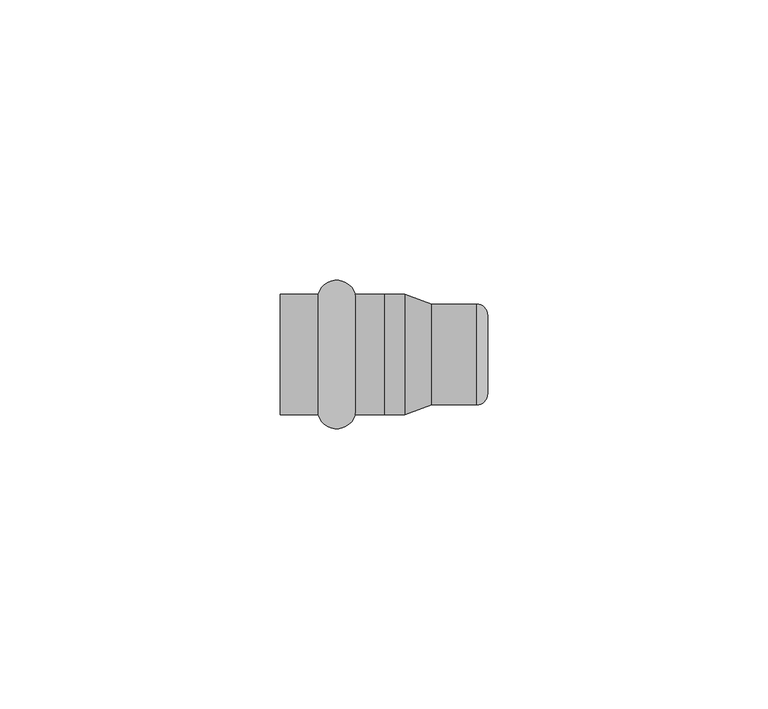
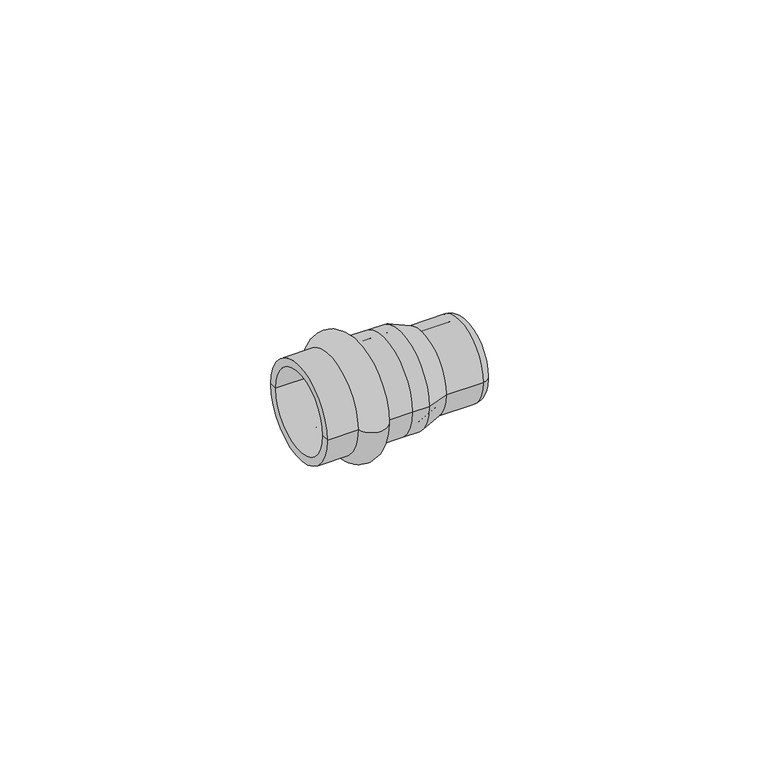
"""IFC4 building model written with IfcOpenShell, lengths in millimetres: pipe fitting geometry, VALTEC_VTi.961.I_Заглушка_нержавеющая : VTi.961.I."""

from ifc_helpers import new_model, si_unit, point, frame, origin, place, context, project, spatial, polyline, circle_curve, ellipse_curve, trimmed, source, transform, mapped, element, save
from ifc_brep_helpers import plane_surface, cylinder_surface, revolved_surface, advanced_brep


def pipe_fitting_948c0ee8(model_context):
    return source(origin(), model_context, "Body", "AdvancedBrep", [
        advanced_brep(
        [(6.7712807, -10.75, 0.0), (6.7712807, 10.75, 0.0), (13.3287193, 10.75, 0.0), (13.3287193, -10.75, 0.0), (0.0, -10.75, 0.0), (0.0, 10.75, 0.0), (0.0, -9.0, 0.0), (0.0, 9.0, 0.0), (18.5, -9.0, 0.0), (18.5, 9.0, 0.0), (18.5, -10.75, 0.0), (18.5, 10.75, 0.0)],
        [
            (0, 1, circle_curve(frame((6.7712807, 0.0, 0.0), z_axis=(1.0, 0.0, 0.0), x_axis=(0.0, 1.0, 0.0)), 10.75)),
            (1, 2, circle_curve(frame((10.05, 9.85, 0.0), z_axis=(0.0, 0.0, -1.0), x_axis=(1.0, 0.0, 0.0)), 3.4)),
            (2, 3, circle_curve(frame((13.3287193, 0.0, 0.0), z_axis=(-1.0, 0.0, 0.0), x_axis=(0.0, 1.0, 0.0)), 10.75)),
            (3, 0, circle_curve(frame((10.05, -9.85, 0.0), z_axis=(0.0, 0.0, -1.0), x_axis=(1.0, 0.0, 0.0)), 3.4)),
            (1, 0, circle_curve(frame((6.7712807, 0.0, 0.0), z_axis=(1.0, 0.0, 0.0), x_axis=(0.0, 1.0, 0.0)), 10.75)),
            (3, 2, circle_curve(frame((13.3287193, 0.0, 0.0), z_axis=(-1.0, 0.0, 0.0), x_axis=(0.0, 1.0, 0.0)), 10.75)),
            (4, 5, circle_curve(frame((0.0, 0.0, 0.0), z_axis=(1.0, 0.0, 0.0), x_axis=(0.0, 1.0, 0.0)), 10.75)),
            (5, 1),
            (0, 4),
            (5, 4, circle_curve(frame((0.0, 0.0, 0.0), z_axis=(1.0, 0.0, 0.0), x_axis=(0.0, 1.0, 0.0)), 10.75)),
            (6, 7, circle_curve(frame((0.0, 0.0, 0.0), z_axis=(1.0, 0.0, 0.0), x_axis=(0.0, 1.0, 0.0)), 9.0)),
            (7, 5),
            (4, 6),
            (7, 6, circle_curve(frame((0.0, 0.0, 0.0), z_axis=(1.0, 0.0, 0.0), x_axis=(0.0, 1.0, 0.0)), 9.0)),
            (8, 9, circle_curve(frame((18.5, 0.0, 0.0), z_axis=(1.0, 0.0, 0.0), x_axis=(0.0, 1.0, 0.0)), 9.0)),
            (9, 7),
            (6, 8),
            (9, 8, circle_curve(frame((18.5, 0.0, 0.0), z_axis=(1.0, 0.0, 0.0), x_axis=(0.0, 1.0, 0.0)), 9.0)),
            (10, 11, circle_curve(frame((18.5, 0.0, 0.0), z_axis=(1.0, 0.0, 0.0), x_axis=(0.0, 1.0, 0.0)), 10.75)),
            (11, 9),
            (8, 10),
            (11, 10, circle_curve(frame((18.5, 0.0, 0.0), z_axis=(1.0, 0.0, 0.0), x_axis=(0.0, 1.0, 0.0)), 10.75)),
            (2, 11),
            (10, 3),
        ],
        [
            revolved_surface(trimmed(ellipse_curve(frame((10.05, 9.85, 0.0), z_axis=(0.0, 0.0, 1.0), x_axis=(1.0, 0.0, 0.0)), 3.4, 3.4), [point((13.3287193, 10.75, 0.0))], [point((6.7712807, 10.75, 0.0))], True, "CARTESIAN"), (-3.5364426, 0.0, 0.0), (-1.0, 0.0, 0.0)),
            cylinder_surface(frame((-3.5364426, 0.0, 0.0), z_axis=(-1.0, 0.0, 0.0), x_axis=(0.0, 1.0, 0.0)), 10.75),
            plane_surface(frame((0.0, 0.0, 0.0), z_axis=(-1.0, 0.0, 0.0), x_axis=(0.0, 1.0, 0.0))),
            revolved_surface(polyline([(0.0, 9.0, 0.0), (18.5, 9.0, 0.0)]), (-3.5364426, 0.0, 0.0), (-1.0, 0.0, 0.0)),
            plane_surface(frame((18.5, 0.0, 0.0), z_axis=(1.0, 0.0, 0.0), x_axis=(0.0, 1.0, 0.0))),
        ],
        [
            (0, [[1, 2, 3, 4]]),
            (0, [[5, -4, 6, -2]]),
            (1, [[7, 8, -1, 9]]),
            (1, [[10, -9, -5, -8]]),
            (2, [[11, 12, -7, 13]]),
            (2, [[14, -13, -10, -12]]),
            (3, [[15, 16, -11, 17]]),
            (3, [[18, -17, -14, -16]]),
            (4, [[19, 20, -15, 21]]),
            (4, [[22, -21, -18, -20]]),
            (1, [[-3, 23, -19, 24]]),
            (1, [[-6, -24, -22, -23]]),
        ],
    ),
        advanced_brep(
        [(18.5, -10.75, 0.0), (18.5, 10.75, 0.0), (22.1919145, 10.75, 0.0), (22.1919145, -10.75, 0.0), (22.1919145, -9.0, 0.0), (22.1919145, 9.0, 0.0), (18.5, 9.0, 0.0), (18.5, -9.0, 0.0), (35.25, -7.25, 0.0), (35.25, 7.25, 0.0), (27.0, 7.25, 0.0), (27.0, -7.25, 0.0), (35.25, 0.0, 0.0), (37.0, -7.0, 0.0), (37.0, 7.0, 0.0), (37.0, 0.0, 0.0), (27.0, -9.0, 0.0), (27.0, 9.0, 0.0), (35.0, 9.0, 0.0), (35.0, -9.0, 0.0)],
        [
            (0, 1, circle_curve(frame((18.5, 0.0, 0.0), z_axis=(1.0, 0.0, 0.0), x_axis=(0.0, 1.0, 0.0)), 10.75)),
            (1, 2),
            (2, 3, circle_curve(frame((22.1919145, 0.0, 0.0), z_axis=(-1.0, 0.0, 0.0), x_axis=(0.0, 1.0, 0.0)), 10.75)),
            (3, 0),
            (1, 0, circle_curve(frame((18.5, 0.0, 0.0), z_axis=(1.0, 0.0, 0.0), x_axis=(0.0, 1.0, 0.0)), 10.75)),
            (3, 2, circle_curve(frame((22.1919145, 0.0, 0.0), z_axis=(-1.0, 0.0, 0.0), x_axis=(0.0, 1.0, 0.0)), 10.75)),
            (4, 5, circle_curve(frame((22.1919145, 0.0, 0.0), z_axis=(1.0, 0.0, 0.0), x_axis=(0.0, 1.0, 0.0)), 9.0)),
            (5, 6),
            (6, 7, circle_curve(frame((18.5, 0.0, 0.0), z_axis=(-1.0, 0.0, 0.0), x_axis=(0.0, 1.0, 0.0)), 9.0)),
            (7, 4),
            (5, 4, circle_curve(frame((22.1919145, 0.0, 0.0), z_axis=(1.0, 0.0, 0.0), x_axis=(0.0, 1.0, 0.0)), 9.0)),
            (7, 6, circle_curve(frame((18.5, 0.0, 0.0), z_axis=(-1.0, 0.0, 0.0), x_axis=(0.0, 1.0, 0.0)), 9.0)),
            (6, 1),
            (0, 7),
            (8, 9, circle_curve(frame((35.25, 0.0, 0.0), z_axis=(1.0, 0.0, 0.0), x_axis=(0.0, 1.0, 0.0)), 7.25)),
            (9, 10),
            (10, 11, circle_curve(frame((27.0, 0.0, 0.0), z_axis=(-1.0, 0.0, 0.0), x_axis=(0.0, 1.0, 0.0)), 7.25)),
            (11, 8),
            (9, 8, circle_curve(frame((35.25, 0.0, 0.0), z_axis=(1.0, 0.0, 0.0), x_axis=(0.0, 1.0, 0.0)), 7.25)),
            (11, 10, circle_curve(frame((27.0, 0.0, 0.0), z_axis=(-1.0, 0.0, 0.0), x_axis=(0.0, 1.0, 0.0)), 7.25)),
            (12, 9),
            (8, 12),
            (13, 14, circle_curve(frame((37.0, 0.0, 0.0), z_axis=(1.0, 0.0, 0.0), x_axis=(0.0, 1.0, 0.0)), 7.0)),
            (14, 15),
            (15, 13),
            (14, 13, circle_curve(frame((37.0, 0.0, 0.0), z_axis=(1.0, 0.0, 0.0), x_axis=(0.0, 1.0, 0.0)), 7.0)),
            (16, 17, circle_curve(frame((27.0, 0.0, 0.0), z_axis=(1.0, 0.0, 0.0), x_axis=(0.0, 1.0, 0.0)), 9.0)),
            (17, 18),
            (18, 19, circle_curve(frame((35.0, 0.0, 0.0), z_axis=(-1.0, 0.0, 0.0), x_axis=(0.0, 1.0, 0.0)), 9.0)),
            (19, 16),
            (17, 16, circle_curve(frame((27.0, 0.0, 0.0), z_axis=(1.0, 0.0, 0.0), x_axis=(0.0, 1.0, 0.0)), 9.0)),
            (19, 18, circle_curve(frame((35.0, 0.0, 0.0), z_axis=(-1.0, 0.0, 0.0), x_axis=(0.0, 1.0, 0.0)), 9.0)),
            (2, 17),
            (16, 3),
            (10, 5),
            (4, 11),
            (18, 14, circle_curve(frame((35.0, 7.0, 0.0), z_axis=(0.0, 0.0, -1.0), x_axis=(1.0, 0.0, 0.0)), 2.0)),
            (13, 19, circle_curve(frame((35.0, -7.0, 0.0), z_axis=(0.0, 0.0, -1.0), x_axis=(1.0, 0.0, 0.0)), 2.0)),
        ],
        [
            cylinder_surface(frame((-40.0167378, 0.0, 0.0), z_axis=(-1.0, 0.0, 0.0), x_axis=(0.0, 1.0, 0.0)), 10.75),
            revolved_surface(polyline([(18.5, 9.0, 0.0), (22.191914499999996, 9.0, 0.0)]), (-40.0167378, 0.0, 0.0), (-1.0, 0.0, 0.0)),
            plane_surface(frame((18.5, 0.0, 0.0), z_axis=(-1.0, 0.0, 0.0), x_axis=(0.0, 1.0, 0.0))),
            revolved_surface(polyline([(27.0, 7.25, 0.0), (35.25, 7.25, 0.0)]), (-40.0167378, 0.0, 0.0), (-1.0, 0.0, 0.0)),
            plane_surface(frame((35.25, 0.0, 0.0), z_axis=(-1.0, 0.0, 0.0), x_axis=(0.0, 1.0, 0.0))),
            plane_surface(frame((37.0, 0.0, 0.0), z_axis=(1.0, 0.0, 0.0), x_axis=(0.0, 1.0, 0.0))),
            cylinder_surface(frame((-40.0167378, 0.0, 0.0), z_axis=(-1.0, 0.0, 0.0), x_axis=(0.0, 1.0, 0.0)), 9.0),
            revolved_surface(polyline([(27.0, 9.0, 0.0), (22.1919145, 10.75, 0.0)]), (-40.0167378, 0.0, 0.0), (-1.0, 0.0, 0.0)),
            revolved_surface(polyline([(22.1919145, 9.0, 0.0), (27.0, 7.25, 0.0)]), (-40.0167378, 0.0, 0.0), (-1.0, 0.0, 0.0)),
            revolved_surface(trimmed(ellipse_curve(frame((35.0, 7.0, 0.0), z_axis=(0.0, 0.0, 1.0), x_axis=(1.0, 0.0, 0.0)), 2.0, 2.0), [point((37.0, 7.0, 0.0))], [point((35.0, 9.0, 0.0))], True, "CARTESIAN"), (-40.0167378, 0.0, 0.0), (-1.0, 0.0, 0.0)),
        ],
        [
            (0, [[1, 2, 3, 4]]),
            (0, [[5, -4, 6, -2]]),
            (1, [[7, 8, 9, 10]]),
            (1, [[11, -10, 12, -8]]),
            (2, [[-9, 13, -1, 14]]),
            (2, [[-12, -14, -5, -13]]),
            (3, [[15, 16, 17, 18]]),
            (3, [[19, -18, 20, -16]]),
            (4, [[21, -15, 22]]),
            (4, [[-22, -19, -21]]),
            (5, [[23, 24, 25]]),
            (5, [[26, -25, -24]]),
            (6, [[27, 28, 29, 30]]),
            (6, [[31, -30, 32, -28]]),
            (7, [[-3, 33, -27, 34]]),
            (7, [[-6, -34, -31, -33]]),
            (8, [[-17, 35, -7, 36]]),
            (8, [[-20, -36, -11, -35]]),
            (9, [[-29, 37, -23, 38]]),
            (9, [[-32, -38, -26, -37]]),
        ],
    ),
    ])


if __name__ == "__main__":
    model = new_model("IFC4")
    model_context = context("Model", 3, world=origin())
    ifc_project = project(units=[si_unit("LENGTHUNIT", "METRE", prefix="MILLI")], contexts=[model_context])
    site = spatial("IfcSite", under=ifc_project)
    building = spatial("IfcBuilding", under=site)
    placement = place(None, origin())
    pipe_fitting_shape = pipe_fitting_948c0ee8(model_context)
    element("IfcPipeFitting", 1, ObjectType="VALTEC_VTi.961.I_Заглушка_нержавеющая : VTi.961.I", at=placement, inside=building, context=model_context, shape_type="MappedRepresentation", body=[
        mapped(pipe_fitting_shape, transform((0.0, 0.0, 0.0), x_axis=(1.0, 0.0, 0.0), y_axis=(0.0, 1.0, 0.0), z_axis=(0.0, 0.0, 1.0))),
    ])
    save(model, "model.ifc")
